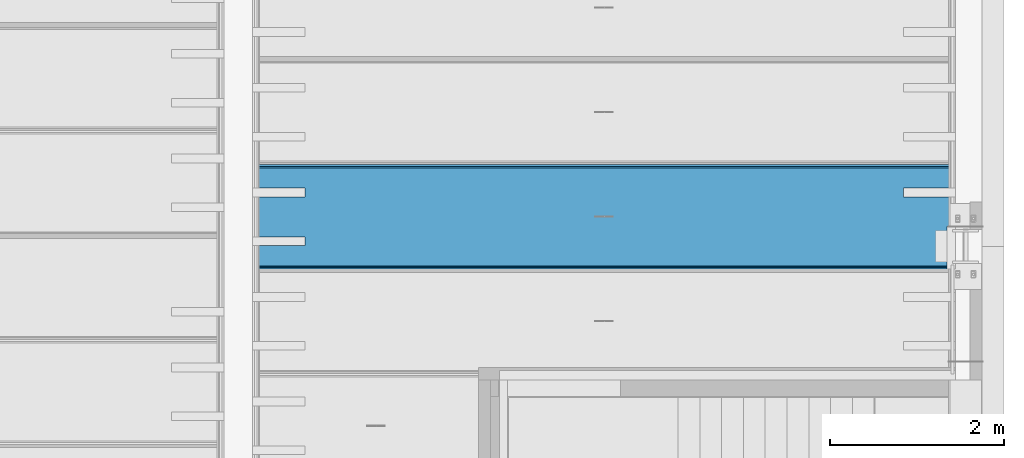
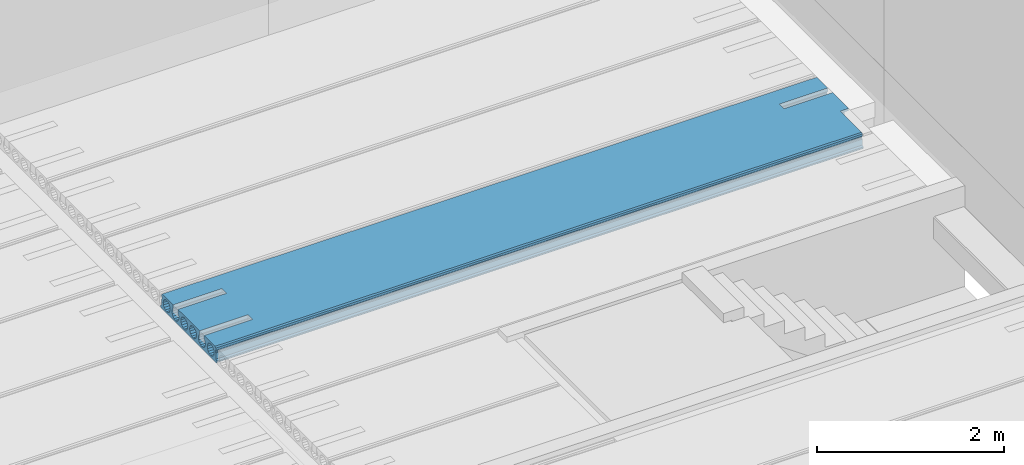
# One storey, part 134 of 230: 1 beam.
"""IFC4X3_ADD2 building model written with IfcOpenShell, lengths in millimetres."""

from ifc_helpers import new_model, si_unit, direction, origin_with_axes, place, context, subcontext, project, spatial, polygons, element, save


model = new_model("IFC4X3_ADD2")

# Units and contexts
model_context = context("Model", 3, precision=1e-05, world=origin_with_axes(), true_north=direction((0.0, 1.0)))
body_context = subcontext(model_context, "Body", "Model", "MODEL_VIEW")
ifc_project = project(units=[si_unit("LENGTHUNIT", "METRE", prefix="MILLI"), si_unit("AREAUNIT", "SQUARE_METRE"), si_unit("VOLUMEUNIT", "CUBIC_METRE"), si_unit("PLANEANGLEUNIT", "RADIAN"), si_unit("TIMEUNIT", "SECOND"), si_unit("MASSUNIT", "GRAM")], contexts=[model_context])

# Site, building, storey
site_placement = place(None, origin_with_axes())
site = spatial("IfcSite", under=ifc_project, at=site_placement, Name="Site", CompositionType="ELEMENT")
building_placement = place(site_placement, origin_with_axes())
building = spatial("IfcBuilding", under=site, at=building_placement, Name="IFC Building Story")
storey_placement = place(building_placement, origin_with_axes())
storey = spatial("IfcBuildingStorey", under=building, at=storey_placement, Name="ETAGE 00 (0)", Elevation=0.0)

# Beam
beam_placement = place(storey_placement, origin_with_axes())
element("IfcBeam", 1, at=beam_placement, inside=storey, Name="HOLLOWCORE SLAB", ObjectType="EB_SP200", context=body_context, shape_type="Tessellation", body=[
    polygons([(40131.189, 22549.0006103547, 3999.9999909), (40131.189, 21371.00061035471, 3999.9999909), (40131.189, 21360.0006103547, 4012.9999909), (40131.189, 21360.0006103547, 4029.9999909), (40131.189, 21380.0006103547, 4044.9999909), (40131.189, 21381.45062256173, 4119.9999909), (40131.189, 21388.98323183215, 4128.676139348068), (40131.189, 21391.84054036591, 4139.805000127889), (40131.189, 21389.41924676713, 4151.036789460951), (40131.189, 21382.23059082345, 4159.9999909), (40131.189, 21382.71190651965, 4185.002769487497), (40131.189, 21398.0006103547, 4199.9999909), (40131.189, 21630.0006103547, 4199.9999909), (40131.189, 21630.0006103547, 4155.806158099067), (40131.189, 21625.3211551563, 4152.679446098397), (40131.189, 21609.17158518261, 4128.509906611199), (40131.189, 21603.5006103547, 4099.9999909), (40131.189, 21609.17158518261, 4071.490075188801), (40131.189, 21625.3211551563, 4047.320535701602), (40131.189, 21649.4906946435, 4031.170965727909), (40131.189, 21678.0006103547, 4025.4999909), (40131.189, 21706.5105260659, 4031.170965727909), (40131.189, 21730.68006555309, 4047.320535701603), (40131.189, 21746.82963552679, 4071.490075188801), (40131.189, 21752.50061035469, 4099.9999909), (40131.189, 21746.82963552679, 4128.509906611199), (40131.189, 21730.6800655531, 4152.679446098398), (40131.189, 21730.0006103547, 4153.133443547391), (40131.189, 21730.0006103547, 4199.9999909), (40131.189, 22190.0006103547, 4199.9999909), (40131.189, 22190.0006103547, 4153.133443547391), (40131.189, 22189.3211551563, 4152.679446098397), (40131.189, 22173.17158518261, 4128.509906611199), (40131.189, 22167.5006103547, 4099.9999909), (40131.189, 22173.1715851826, 4071.490075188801), (40131.189, 22189.3211551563, 4047.320535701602), (40131.189, 22213.4906946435, 4031.170965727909), (40131.189, 22242.0006103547, 4025.4999909), (40131.189, 22270.51052606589, 4031.170965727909), (40131.189, 22294.68006555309, 4047.320535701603), (40131.189, 22310.82963552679, 4071.490075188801), (40131.189, 22316.5006103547, 4099.9999909), (40131.189, 22310.82963552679, 4128.509906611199), (40131.189, 22294.6800655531, 4152.679446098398), (40131.189, 22290.0006103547, 4155.806158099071), (40131.189, 22290.0006103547, 4199.9999909), (40131.189, 22522.0006103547, 4199.9999909), (40131.189, 22537.28931418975, 4185.002769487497), (40131.189, 22537.77062988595, 4159.9999909), (40131.189, 22530.58197394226, 4151.036789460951), (40131.189, 22528.16068034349, 4139.805000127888), (40131.189, 22531.01798887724, 4128.676139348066), (40131.189, 22538.55059814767, 4119.9999909), (40131.189, 22540.0006103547, 4044.9999909), (40131.189, 22560.0006103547, 4029.9999909), (40131.189, 22560.0006103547, 4012.9999909), (40131.189, 22482.6800655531, 4152.679446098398), (40131.189, 22458.5105260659, 4168.829016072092), (40131.189, 22430.0006103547, 4174.4999909), (40131.189, 22401.4906946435, 4168.829016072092), (40131.189, 22377.3211551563, 4152.679446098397), (40131.189, 22361.17158518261, 4128.509906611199), (40131.189, 22355.5006103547, 4099.9999909), (40131.189, 22361.1715851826, 4071.490075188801), (40131.189, 22377.3211551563, 4047.320535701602), (40131.189, 22401.4906946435, 4031.170965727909), (40131.189, 22430.0006103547, 4025.4999909), (40131.189, 22458.51052606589, 4031.170965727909), (40131.189, 22482.68006555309, 4047.320535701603), (40131.189, 22498.82963552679, 4071.490075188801), (40131.189, 22504.5006103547, 4099.9999909), (40131.189, 22498.82963552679, 4128.509906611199), (40131.189, 22106.6800655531, 4152.679446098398), (40131.189, 22082.5105260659, 4168.829016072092), (40131.189, 22054.0006103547, 4174.4999909), (40131.189, 22025.49069464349, 4168.829016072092), (40131.189, 22001.3211551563, 4152.679446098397), (40131.189, 21985.17158518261, 4128.509906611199), (40131.189, 21979.5006103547, 4099.9999909), (40131.189, 21985.1715851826, 4071.490075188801), (40131.189, 22001.3211551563, 4047.320535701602), (40131.189, 22025.4906946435, 4031.170965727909), (40131.189, 22054.0006103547, 4025.4999909), (40131.189, 22082.51052606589, 4031.170965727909), (40131.189, 22106.6800655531, 4047.320535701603), (40131.189, 22122.82963552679, 4071.490075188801), (40131.189, 22128.5006103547, 4099.9999909), (40131.189, 22122.82963552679, 4128.509906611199), (40131.189, 21918.68006555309, 4152.679446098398), (40131.189, 21894.5105260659, 4168.829016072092), (40131.189, 21866.0006103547, 4174.4999909), (40131.189, 21837.4906946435, 4168.829016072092), (40131.189, 21813.3211551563, 4152.679446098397), (40131.189, 21797.17158518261, 4128.509906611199), (40131.189, 21791.5006103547, 4099.9999909), (40131.189, 21797.17158518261, 4071.490075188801), (40131.189, 21813.3211551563, 4047.320535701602), (40131.189, 21837.4906946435, 4031.170965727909), (40131.189, 21866.0006103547, 4025.4999909), (40131.189, 21894.5105260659, 4031.170965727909), (40131.189, 21918.68006555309, 4047.320535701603), (40131.189, 21934.82963552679, 4071.490075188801), (40131.189, 21940.5006103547, 4099.9999909), (40131.189, 21934.8296355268, 4128.509906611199), (40131.189, 21542.6800655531, 4152.679446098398), (40131.189, 21518.5105260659, 4168.829016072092), (40131.189, 21490.0006103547, 4174.4999909), (40131.189, 21461.4906946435, 4168.829016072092), (40131.189, 21437.3211551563, 4152.679446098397), (40131.189, 21421.1715851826, 4128.509906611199), (40131.189, 21415.5006103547, 4099.9999909), (40131.189, 21421.1715851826, 4071.490075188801), (40131.189, 21437.3211551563, 4047.320535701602), (40131.189, 21461.4906946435, 4031.170965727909), (40131.189, 21490.0006103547, 4025.4999909), (40131.189, 21518.5105260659, 4031.170965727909), (40131.189, 21542.68006555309, 4047.320535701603), (40131.189, 21558.82963552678, 4071.490075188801), (40131.189, 21564.5006103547, 4099.9999909), (40131.189, 21558.82963552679, 4128.509906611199), (48196.189, 22549.0006103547, 3999.9999909), (48196.189, 22560.0006103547, 4012.9999909), (48196.189, 22560.0006103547, 4029.9999909), (48196.189, 22540.0006103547, 4044.9999909), (48196.189, 22538.55059814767, 4119.9999909), (48196.189, 22531.01798887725, 4128.676139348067), (48196.189, 22528.16068034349, 4139.805000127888), (48196.189, 22530.58197394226, 4151.036789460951), (48196.189, 22537.77062988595, 4159.9999909), (48196.189, 22537.28931418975, 4185.002769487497), (48196.189, 22522.0006103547, 4199.9999909), (48196.189, 22290.0006103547, 4199.9999909), (48196.189, 22290.0006103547, 4155.806158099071), (48196.189, 22294.68006555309, 4152.679446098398), (48196.189, 22310.82963552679, 4128.509906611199), (48196.189, 22316.5006103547, 4099.9999909), (48196.189, 22310.82963552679, 4071.490075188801), (48196.189, 22294.68006555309, 4047.320535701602), (48196.189, 22270.5105260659, 4031.170965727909), (48196.189, 22242.0006103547, 4025.4999909), (48196.189, 22213.4906946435, 4031.170965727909), (48196.189, 22189.3211551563, 4047.320535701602), (48196.189, 22173.17158518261, 4071.490075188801), (48196.189, 22167.5006103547, 4099.9999909), (48196.189, 22173.17158518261, 4128.509906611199), (48196.189, 22189.3211551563, 4152.679446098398), (48196.189, 22190.0006103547, 4153.133443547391), (48196.189, 22190.0006103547, 4199.9999909), (48196.189, 21850.0006103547, 4199.9999909), (48196.189, 21850.0006103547, 4171.317393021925), (48196.189, 21866.0006103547, 4174.4999909), (48196.189, 21894.5105260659, 4168.829016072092), (48196.189, 21918.6800655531, 4152.679446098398), (48196.189, 21934.82963552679, 4128.509906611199), (48196.189, 21940.5006103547, 4099.9999909), (48196.189, 21934.82963552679, 4071.490075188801), (48196.189, 21918.6800655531, 4047.320535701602), (48196.189, 21894.5105260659, 4031.170965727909), (48196.189, 21866.0006103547, 4025.4999909), (48196.189, 21850.0006103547, 4028.682588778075), (48196.189, 21850.0006103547, 3999.9999909), (48196.189, 22482.68006555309, 4152.679446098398), (48196.189, 22498.82963552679, 4128.509906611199), (48196.189, 22504.5006103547, 4099.9999909), (48196.189, 22498.82963552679, 4071.490075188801), (48196.189, 22482.68006555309, 4047.320535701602), (48196.189, 22458.5105260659, 4031.170965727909), (48196.189, 22430.0006103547, 4025.4999909), (48196.189, 22401.4906946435, 4031.170965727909), (48196.189, 22377.3211551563, 4047.320535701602), (48196.189, 22361.17158518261, 4071.490075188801), (48196.189, 22355.5006103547, 4099.9999909), (48196.189, 22361.17158518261, 4128.509906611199), (48196.189, 22377.3211551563, 4152.679446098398), (48196.189, 22401.4906946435, 4168.829016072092), (48196.189, 22430.0006103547, 4174.4999909), (48196.189, 22458.5105260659, 4168.829016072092), (48196.189, 22106.6800655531, 4152.679446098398), (48196.189, 22122.82963552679, 4128.509906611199), (48196.189, 22128.5006103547, 4099.9999909), (48196.189, 22122.82963552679, 4071.490075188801), (48196.189, 22106.6800655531, 4047.320535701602), (48196.189, 22082.5105260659, 4031.170965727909), (48196.189, 22054.0006103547, 4025.4999909), (48196.189, 22025.4906946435, 4031.170965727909), (48196.189, 22001.3211551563, 4047.320535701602), (48196.189, 21985.17158518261, 4071.490075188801), (48196.189, 21979.5006103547, 4099.9999909), (48196.189, 21985.17158518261, 4128.509906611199), (48196.189, 22001.3211551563, 4152.679446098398), (48196.189, 22025.4906946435, 4168.829016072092), (48196.189, 22054.0006103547, 4174.4999909), (48196.189, 22082.5105260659, 4168.829016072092), (48096.18900000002, 21850.0006103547, 3999.9999909), (48096.18900000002, 21371.00061035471, 3999.9999909), (48096.18900000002, 21360.0006103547, 4012.9999909), (48096.18900000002, 21360.0006103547, 4029.9999909), (48096.18900000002, 21380.0006103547, 4044.9999909), (48096.18900000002, 21381.45062256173, 4119.9999909), (48096.18900000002, 21388.98323183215, 4128.676139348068), (48096.18900000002, 21391.84054036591, 4139.805000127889), (48096.18900000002, 21389.41924676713, 4151.036789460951), (48096.18900000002, 21382.23059082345, 4159.9999909), (48096.18900000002, 21382.71190651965, 4185.002769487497), (48096.18900000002, 21398.0006103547, 4199.9999909), (48096.18900000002, 21850.0006103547, 4199.9999909), (47596.18900000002, 22190.0006103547, 4199.9999909), (47596.18900000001, 22290.0006103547, 4199.9999909), (40731.189, 22290.0006103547, 4199.9999909), (40731.189, 22190.0006103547, 4199.9999909), (40731.189, 21730.0006103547, 4199.9999909), (40731.189, 21630.0006103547, 4199.9999909), (47596.18900000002, 22290.0006103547, 4155.806158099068), (47596.18900000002, 22270.5105260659, 4168.829016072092), (40731.189, 22270.5105260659, 4168.82901607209), (40731.189, 22290.0006103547, 4155.806158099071), (47596.18900000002, 22242.0006103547, 4174.4999909), (40731.189, 22242.0006103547, 4174.4999909), (47596.18900000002, 22213.4906946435, 4168.829016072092), (40731.189, 22213.49069464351, 4168.829016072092), (40731.189, 22190.0006103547, 4153.133443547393), (47596.18900000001, 22190.0006103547, 4153.133443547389), (48096.18900000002, 21850.0006103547, 4171.317393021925), (48096.18900000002, 21837.4906946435, 4168.829016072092), (48096.18900000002, 21813.3211551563, 4152.679446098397), (48096.18900000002, 21797.17158518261, 4128.509906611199), (48096.18900000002, 21791.5006103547, 4099.9999909), (48096.18900000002, 21797.17158518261, 4071.490075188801), (48096.18900000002, 21813.3211551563, 4047.320535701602), (48096.18900000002, 21837.4906946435, 4031.170965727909), (48096.18900000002, 21850.0006103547, 4028.682588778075), (48096.18900000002, 21730.6800655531, 4152.679446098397), (48096.18900000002, 21706.5105260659, 4168.829016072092), (40731.189, 21706.5105260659, 4168.829016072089), (40731.189, 21730.0006103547, 4153.13344354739), (40731.189, 21678.0006103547, 4174.4999909), (48096.18900000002, 21678.0006103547, 4174.4999909), (40731.189, 21649.4906946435, 4168.829016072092), (48096.18900000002, 21649.4906946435, 4168.829016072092), (40731.189, 21630.0006103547, 4155.806158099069), (48096.18900000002, 21625.3211551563, 4152.679446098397), (48096.18900000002, 21609.17158518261, 4128.509906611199), (48096.18900000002, 21603.5006103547, 4099.9999909), (48096.18900000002, 21609.17158518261, 4071.490075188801), (48096.18900000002, 21625.3211551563, 4047.320535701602), (48096.18900000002, 21649.4906946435, 4031.170965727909), (48096.18900000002, 21678.0006103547, 4025.4999909), (48096.18900000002, 21706.5105260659, 4031.170965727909), (48096.18900000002, 21730.68006555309, 4047.320535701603), (48096.18900000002, 21746.82963552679, 4071.490075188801), (48096.18900000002, 21752.50061035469, 4099.9999909), (48096.18900000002, 21746.82963552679, 4128.509906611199), (48096.18900000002, 21542.6800655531, 4152.679446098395), (48096.18900000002, 21518.5105260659, 4168.829016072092), (48096.18900000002, 21490.0006103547, 4174.4999909), (48096.18900000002, 21461.4906946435, 4168.829016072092), (48096.18900000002, 21437.3211551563, 4152.679446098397), (48096.18900000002, 21421.1715851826, 4128.509906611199), (48096.18900000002, 21415.5006103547, 4099.9999909), (48096.18900000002, 21421.1715851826, 4071.490075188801), (48096.18900000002, 21437.3211551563, 4047.320535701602), (48096.18900000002, 21461.4906946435, 4031.170965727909), (48096.18900000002, 21490.0006103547, 4025.4999909), (48096.18900000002, 21518.5105260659, 4031.170965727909), (48096.18900000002, 21542.68006555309, 4047.320535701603), (48096.18900000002, 21558.82963552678, 4071.490075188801), (48096.18900000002, 21564.5006103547, 4099.9999909), (48096.18900000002, 21558.82963552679, 4128.509906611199), (40731.189, 22190.0006103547, 4199.999996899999), (40731.189, 22290.0006103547, 4199.999996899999), (47596.18900000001, 22290.0006103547, 4199.999996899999), (47596.18900000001, 22190.0006103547, 4199.999996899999), (40731.189, 21630.0006103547, 4199.999996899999), (40731.189, 21730.0006103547, 4199.999996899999), (48096.18900000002, 21850.0006103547, 3999.9999969), (48096.18900000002, 21850.0006103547, 4199.999996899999)], [[[27, 28, 29]], [[92, 93, 26]], [[92, 26, 27]], [[92, 27, 29]], [[29, 91, 92]], [[91, 29, 30]], [[30, 90, 91]], [[30, 89, 90]], [[94, 95, 25]], [[94, 25, 26]], [[26, 93, 94]], [[96, 97, 24]], [[24, 25, 95]], [[24, 95, 96]], [[97, 23, 24]], [[76, 77, 104]], [[76, 104, 89]], [[89, 75, 76]], [[75, 89, 30]], [[30, 74, 75]], [[30, 73, 74]], [[78, 79, 103]], [[78, 103, 104]], [[104, 77, 78]], [[80, 81, 102]], [[102, 103, 79]], [[102, 79, 80]], [[81, 101, 102]], [[88, 73, 30]], [[88, 30, 31]], [[33, 34, 87]], [[33, 87, 88]], [[88, 32, 33]], [[88, 31, 32]], [[35, 36, 86]], [[86, 87, 34]], [[86, 34, 35]], [[36, 85, 86]], [[44, 45, 46]], [[60, 61, 43]], [[60, 43, 44]], [[60, 44, 46]], [[46, 59, 60]], [[46, 47, 59]], [[47, 58, 59]], [[47, 57, 58]], [[62, 63, 42]], [[62, 42, 43]], [[43, 61, 62]], [[64, 65, 41]], [[41, 42, 63]], [[41, 63, 64]], [[50, 51, 72]], [[50, 72, 57]], [[57, 47, 48]], [[57, 48, 49]], [[57, 49, 50]], [[52, 53, 71]], [[52, 71, 72]], [[72, 51, 52]], [[53, 54, 70]], [[53, 70, 71]], [[54, 55, 56]], [[54, 56, 1]], [[1, 69, 70]], [[1, 70, 54]], [[1, 68, 69]], [[1, 67, 68]], [[1, 66, 67]], [[1, 40, 66]], [[40, 41, 65]], [[40, 65, 66]], [[1, 39, 40]], [[1, 38, 39]], [[1, 84, 38]], [[84, 37, 38]], [[84, 85, 36]], [[84, 36, 37]], [[1, 83, 84]], [[1, 100, 83]], [[100, 82, 83]], [[100, 101, 81]], [[100, 81, 82]], [[1, 99, 100]], [[1, 22, 99]], [[22, 98, 99]], [[22, 23, 97]], [[22, 97, 98]], [[1, 21, 22]], [[1, 2, 21]], [[2, 20, 21]], [[2, 19, 20]], [[9, 10, 11]], [[9, 11, 12]], [[109, 110, 8]], [[109, 8, 9]], [[9, 12, 108]], [[9, 108, 109]], [[12, 107, 108]], [[107, 12, 13]], [[13, 106, 107]], [[13, 105, 106]], [[110, 7, 8]], [[112, 113, 5]], [[5, 6, 111]], [[5, 111, 112]], [[6, 7, 110]], [[6, 110, 111]], [[116, 117, 18]], [[116, 18, 19]], [[19, 115, 116]], [[19, 2, 115]], [[2, 114, 115]], [[2, 5, 113]], [[2, 113, 114]], [[2, 3, 4]], [[2, 4, 5]], [[118, 119, 17]], [[118, 17, 18]], [[18, 117, 118]], [[120, 105, 16]], [[16, 17, 119]], [[16, 119, 120]], [[105, 13, 15]], [[105, 15, 16]], [[13, 14, 15]], [[159, 160, 161]], [[161, 158, 159]], [[161, 157, 158]], [[128, 129, 130]], [[128, 130, 131]], [[128, 131, 162]], [[162, 163, 127]], [[162, 127, 128]], [[163, 126, 127]], [[165, 166, 124]], [[124, 125, 164]], [[124, 164, 165]], [[125, 126, 163]], [[125, 163, 164]], [[177, 162, 131]], [[131, 176, 177]], [[176, 131, 132]], [[132, 175, 176]], [[132, 174, 175]], [[132, 133, 173]], [[132, 173, 174]], [[135, 136, 172]], [[135, 172, 173]], [[173, 134, 135]], [[173, 133, 134]], [[137, 138, 171]], [[171, 172, 136]], [[171, 136, 137]], [[138, 170, 171]], [[146, 147, 148]], [[148, 178, 145]], [[148, 145, 146]], [[179, 180, 144]], [[179, 144, 145]], [[145, 178, 179]], [[181, 182, 143]], [[143, 144, 180]], [[143, 180, 181]], [[182, 142, 143]], [[185, 186, 156]], [[185, 156, 157]], [[157, 184, 185]], [[184, 157, 161]], [[161, 141, 184]], [[141, 183, 184]], [[141, 142, 182]], [[141, 182, 183]], [[161, 140, 141]], [[161, 169, 140]], [[169, 139, 140]], [[169, 170, 138]], [[169, 138, 139]], [[161, 168, 169]], [[161, 121, 168]], [[121, 167, 168]], [[121, 124, 166]], [[121, 166, 167]], [[121, 122, 123]], [[121, 123, 124]], [[187, 188, 155]], [[187, 155, 156]], [[156, 186, 187]], [[189, 190, 154]], [[154, 155, 188]], [[154, 188, 189]], [[193, 178, 148]], [[148, 192, 193]], [[148, 153, 192]], [[153, 191, 192]], [[153, 154, 190]], [[153, 190, 191]], [[148, 152, 153]], [[148, 149, 152]], [[149, 151, 152]], [[149, 150, 151]], [[194, 195, 2]], [[194, 2, 1]], [[1, 121, 194]], [[121, 161, 194]], [[3, 2, 195, 196]], [[4, 3, 196, 197]], [[5, 4, 197, 198]], [[6, 5, 198, 199]], [[7, 6, 199, 200]], [[8, 7, 200, 201]], [[9, 8, 201, 202]], [[10, 9, 202, 203]], [[11, 10, 203, 204]], [[12, 11, 204, 205]], [[206, 149, 148]], [[208, 132, 131]], [[208, 131, 47]], [[47, 207, 208]], [[210, 30, 29]], [[210, 29, 211]], [[212, 13, 12]], [[212, 12, 205]], [[205, 211, 212]], [[210, 211, 205]], [[205, 209, 210]], [[205, 207, 47]], [[205, 47, 209]], [[47, 46, 209]], [[206, 148, 207]], [[207, 205, 206]], [[48, 47, 131, 130]], [[49, 48, 130, 129]], [[50, 49, 129, 128]], [[51, 50, 128, 127]], [[52, 51, 127, 126]], [[53, 52, 126, 125]], [[54, 53, 125, 124]], [[55, 54, 124, 123]], [[56, 55, 123, 122]], [[1, 56, 122, 121]], [[58, 57, 162, 177]], [[59, 58, 177, 176]], [[60, 59, 176, 175]], [[61, 60, 175, 174]], [[62, 61, 174, 173]], [[63, 62, 173, 172]], [[64, 63, 172, 171]], [[65, 64, 171, 170]], [[66, 65, 170, 169]], [[67, 66, 169, 168]], [[68, 67, 168, 167]], [[69, 68, 167, 166]], [[70, 69, 166, 165]], [[71, 70, 165, 164]], [[72, 71, 164, 163]], [[57, 72, 163, 162]], [[216, 45, 44]], [[216, 44, 213]], [[213, 214, 215]], [[213, 215, 216]], [[44, 134, 213]], [[134, 133, 213]], [[215, 214, 217, 218]], [[218, 217, 219, 220]], [[222, 147, 146]], [[222, 146, 221]], [[221, 220, 219]], [[221, 219, 222]], [[146, 32, 221]], [[32, 31, 221]], [[33, 32, 146, 145]], [[34, 33, 145, 144]], [[35, 34, 144, 143]], [[36, 35, 143, 142]], [[37, 36, 142, 141]], [[38, 37, 141, 140]], [[39, 38, 140, 139]], [[40, 39, 139, 138]], [[41, 40, 138, 137]], [[42, 41, 137, 136]], [[43, 42, 136, 135]], [[44, 43, 135, 134]], [[74, 73, 178, 193]], [[75, 74, 193, 192]], [[76, 75, 192, 191]], [[77, 76, 191, 190]], [[78, 77, 190, 189]], [[79, 78, 189, 188]], [[80, 79, 188, 187]], [[81, 80, 187, 186]], [[82, 81, 186, 185]], [[83, 82, 185, 184]], [[84, 83, 184, 183]], [[85, 84, 183, 182]], [[86, 85, 182, 181]], [[87, 86, 181, 180]], [[88, 87, 180, 179]], [[73, 88, 179, 178]], [[90, 89, 153, 152]], [[91, 90, 152, 151]], [[223, 224, 92]], [[92, 91, 151]], [[92, 151, 223]], [[151, 150, 223]], [[93, 92, 224, 225]], [[94, 93, 225, 226]], [[95, 94, 226, 227]], [[96, 95, 227, 228]], [[97, 96, 228, 229]], [[98, 97, 229, 230]], [[231, 160, 159]], [[231, 159, 99]], [[231, 99, 98]], [[98, 230, 231]], [[100, 99, 159, 158]], [[101, 100, 158, 157]], [[102, 101, 157, 156]], [[103, 102, 156, 155]], [[104, 103, 155, 154]], [[89, 104, 154, 153]], [[235, 28, 27]], [[235, 27, 232]], [[232, 233, 234]], [[232, 234, 235]], [[236, 234, 233, 237]], [[238, 236, 237, 239]], [[240, 238, 239]], [[240, 239, 241]], [[241, 15, 240]], [[15, 14, 240]], [[16, 15, 241, 242]], [[17, 16, 242, 243]], [[18, 17, 243, 244]], [[19, 18, 244, 245]], [[20, 19, 245, 246]], [[21, 20, 246, 247]], [[22, 21, 247, 248]], [[23, 22, 248, 249]], [[24, 23, 249, 250]], [[25, 24, 250, 251]], [[26, 25, 251, 252]], [[27, 26, 252, 232]], [[106, 105, 253, 254]], [[107, 106, 254, 255]], [[108, 107, 255, 256]], [[109, 108, 256, 257]], [[110, 109, 257, 258]], [[111, 110, 258, 259]], [[112, 111, 259, 260]], [[113, 112, 260, 261]], [[114, 113, 261, 262]], [[115, 114, 262, 263]], [[116, 115, 263, 264]], [[117, 116, 264, 265]], [[118, 117, 265, 266]], [[119, 118, 266, 267]], [[120, 119, 267, 268]], [[105, 120, 268, 253]], [[46, 45, 216, 209]], [[31, 30, 269, 221]], [[220, 221, 210]], [[210, 270, 218]], [[210, 218, 220]], [[270, 215, 218]], [[270, 216, 215]], [[148, 147, 222, 207]], [[133, 132, 271, 213]], [[214, 213, 208]], [[208, 217, 214]], [[208, 272, 219]], [[208, 219, 217]], [[272, 222, 219]], [[29, 28, 235, 211]], [[14, 13, 273, 240]], [[238, 240, 212]], [[212, 236, 238]], [[212, 274, 234]], [[212, 234, 236]], [[274, 235, 234]], [[231, 194, 161, 160]], [[233, 232, 252]], [[233, 252, 251]], [[233, 251, 250]], [[233, 250, 249]], [[233, 249, 248]], [[233, 248, 247]], [[233, 247, 246]], [[233, 246, 245]], [[233, 245, 244]], [[233, 244, 243]], [[233, 243, 242]], [[233, 242, 241]], [[233, 241, 239]], [[233, 239, 237]], [[276, 223, 150, 149]]]),
])

save(model, "model.ifc")
